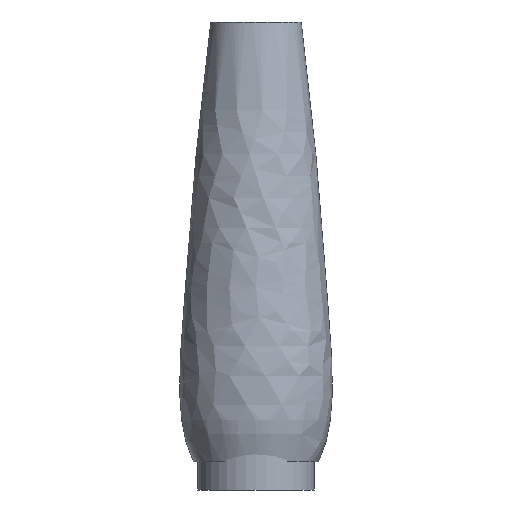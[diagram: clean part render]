
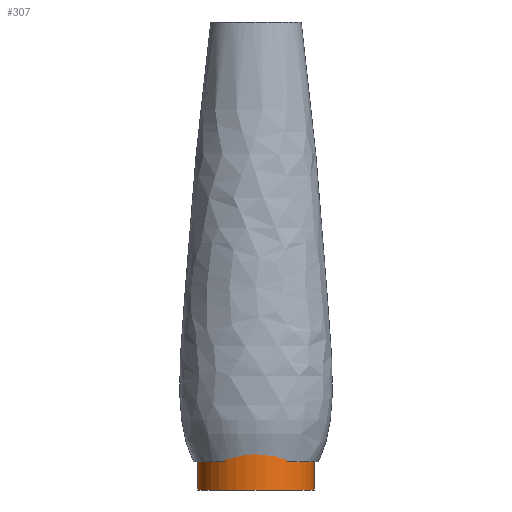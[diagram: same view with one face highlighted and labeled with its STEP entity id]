
A CAD part, left-side view. The second image highlights one B-rep face of the part: STEP entity #307.
In plain terms, the highlighted cylindrical face has radius 27 mm (diameter 54 mm), a full revolution.
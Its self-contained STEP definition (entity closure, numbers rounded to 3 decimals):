
#307 = ADVANCED_FACE('',(#308),#335,.T.);
#308 = FACE_BOUND('',#309,.T.);
#309 = EDGE_LOOP('',(#310,#319,#327,#334));
#310 = ORIENTED_EDGE('',*,*,#311,.F.);
#311 = EDGE_CURVE('',#312,#312,#314,.T.);
#312 = VERTEX_POINT('',#313);
#313 = CARTESIAN_POINT('',(27.,0.,44.));
#314 = CIRCLE('',#315,27.);
#315 = AXIS2_PLACEMENT_3D('',#316,#317,#318);
#316 = CARTESIAN_POINT('',(0.,0.,44.));
#317 = DIRECTION('',(0.,0.,1.));
#318 = DIRECTION('',(1.,0.,-0.));
#319 = ORIENTED_EDGE('',*,*,#320,.F.);
#320 = EDGE_CURVE('',#321,#312,#323,.T.);
#321 = VERTEX_POINT('',#322);
#322 = CARTESIAN_POINT('',(27.,0.,21.));
#323 = LINE('',#324,#325);
#324 = CARTESIAN_POINT('',(27.,0.,21.));
#325 = VECTOR('',#326,1.);
#326 = DIRECTION('',(0.,0.,1.));
#327 = ORIENTED_EDGE('',*,*,#328,.T.);
#328 = EDGE_CURVE('',#321,#321,#329,.T.);
#329 = CIRCLE('',#330,27.);
#330 = AXIS2_PLACEMENT_3D('',#331,#332,#333);
#331 = CARTESIAN_POINT('',(0.,0.,21.));
#332 = DIRECTION('',(0.,0.,1.));
#333 = DIRECTION('',(1.,0.,-0.));
#334 = ORIENTED_EDGE('',*,*,#320,.T.);
#335 = CYLINDRICAL_SURFACE('',#336,27.);
#336 = AXIS2_PLACEMENT_3D('',#337,#338,#339);
#337 = CARTESIAN_POINT('',(0.,0.,21.));
#338 = DIRECTION('',(0.,0.,1.));
#339 = DIRECTION('',(1.,0.,-0.));
